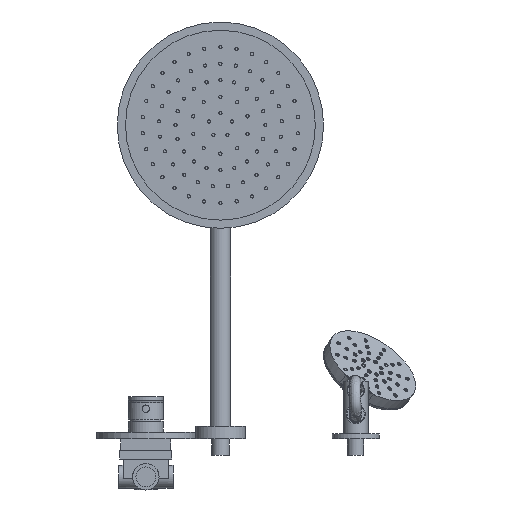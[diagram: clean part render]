
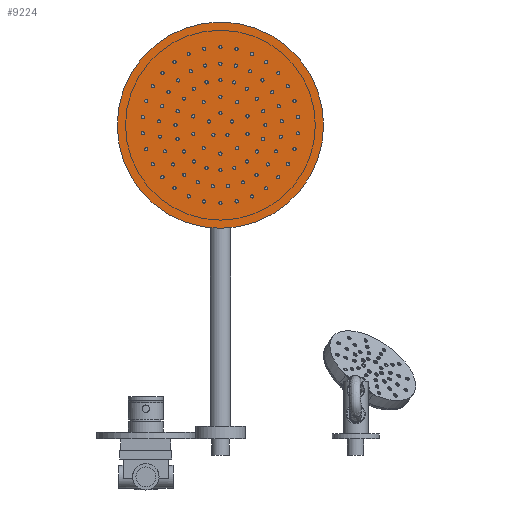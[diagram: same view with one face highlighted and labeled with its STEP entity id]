
A CAD part, front view. The second image highlights one B-rep face of the part: STEP entity #9224.
In plain terms, the highlighted planar face has unit normal (0, -1, 0) as drawn and (0, -0.996, 0.087) by its records, which use the part's own axes.
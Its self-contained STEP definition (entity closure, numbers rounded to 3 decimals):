
#672=CIRCLE('',#10329,125.);
#673=CIRCLE('',#10330,125.);
#1539=FACE_OUTER_BOUND('',#2223,.T.);
#2223=EDGE_LOOP('',(#6676,#6677));
#4050=VERTEX_POINT('',#16407);
#4051=VERTEX_POINT('',#16408);
#5084=EDGE_CURVE('',#4050,#4051,#672,.T.);
#5085=EDGE_CURVE('',#4051,#4050,#673,.T.);
#6676=ORIENTED_EDGE('',*,*,#5084,.T.);
#6677=ORIENTED_EDGE('',*,*,#5085,.T.);
#8754=PLANE('',#10331);
#9224=ADVANCED_FACE('',(#1539),#8754,.T.);
#10329=AXIS2_PLACEMENT_3D('',#16409,#12105,#12106);
#10330=AXIS2_PLACEMENT_3D('',#16410,#12107,#12108);
#10331=AXIS2_PLACEMENT_3D('',#16412,#12110,#12111);
#12105=DIRECTION('center_axis',(0.,-0.996,0.087));
#12106=DIRECTION('ref_axis',(1.,0.,0.));
#12107=DIRECTION('center_axis',(0.,-0.996,0.087));
#12108=DIRECTION('ref_axis',(1.,0.,0.));
#12110=DIRECTION('center_axis',(0.,-0.996,0.087));
#12111=DIRECTION('ref_axis',(0.,-0.087,-0.996));
#16407=CARTESIAN_POINT('',(0.,949.8,229.921));
#16408=CARTESIAN_POINT('',(0.,971.589,478.969));
#16409=CARTESIAN_POINT('Origin',(0.,960.694,354.445));
#16410=CARTESIAN_POINT('Origin',(0.,960.694,354.445));
#16412=CARTESIAN_POINT('Origin',(0.,960.694,354.445));
